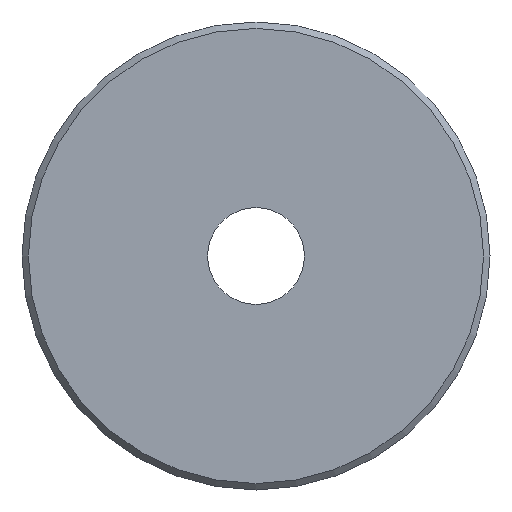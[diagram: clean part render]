
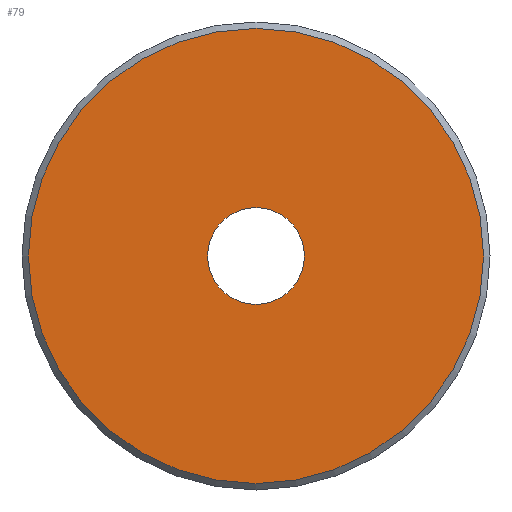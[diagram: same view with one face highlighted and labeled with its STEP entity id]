
A CAD part, front view. The second image highlights one B-rep face of the part: STEP entity #79.
In plain terms, the highlighted planar face has unit normal (0, -1, 0).
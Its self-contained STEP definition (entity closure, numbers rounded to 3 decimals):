
#16=PLANE('',#92);
#23=FACE_BOUND('',#40,.T.);
#29=FACE_OUTER_BOUND('',#39,.T.);
#39=EDGE_LOOP('',(#69));
#40=EDGE_LOOP('',(#70));
#47=CIRCLE('',#91,15.);
#48=CIRCLE('',#93,70.5);
#53=VERTEX_POINT('',#134);
#54=VERTEX_POINT('',#137);
#59=EDGE_CURVE('',#53,#53,#47,.T.);
#60=EDGE_CURVE('',#54,#54,#48,.T.);
#69=ORIENTED_EDGE('',*,*,#60,.F.);
#70=ORIENTED_EDGE('',*,*,#59,.T.);
#79=ADVANCED_FACE('',(#29,#23),#16,.T.);
#91=AXIS2_PLACEMENT_3D('',#135,#113,#114);
#92=AXIS2_PLACEMENT_3D('',#136,#115,#116);
#93=AXIS2_PLACEMENT_3D('',#138,#117,#118);
#113=DIRECTION('center_axis',(0.,1.,0.));
#114=DIRECTION('ref_axis',(1.,0.,0.));
#115=DIRECTION('center_axis',(0.,-1.,0.));
#116=DIRECTION('ref_axis',(0.,0.,-1.));
#117=DIRECTION('center_axis',(0.,1.,0.));
#118=DIRECTION('ref_axis',(1.,0.,0.));
#134=CARTESIAN_POINT('',(77.798,10.022,0.));
#135=CARTESIAN_POINT('Origin',(92.798,10.022,0.));
#136=CARTESIAN_POINT('Origin',(22.298,10.022,0.));
#137=CARTESIAN_POINT('',(22.298,10.022,0.));
#138=CARTESIAN_POINT('Origin',(92.798,10.022,0.));
